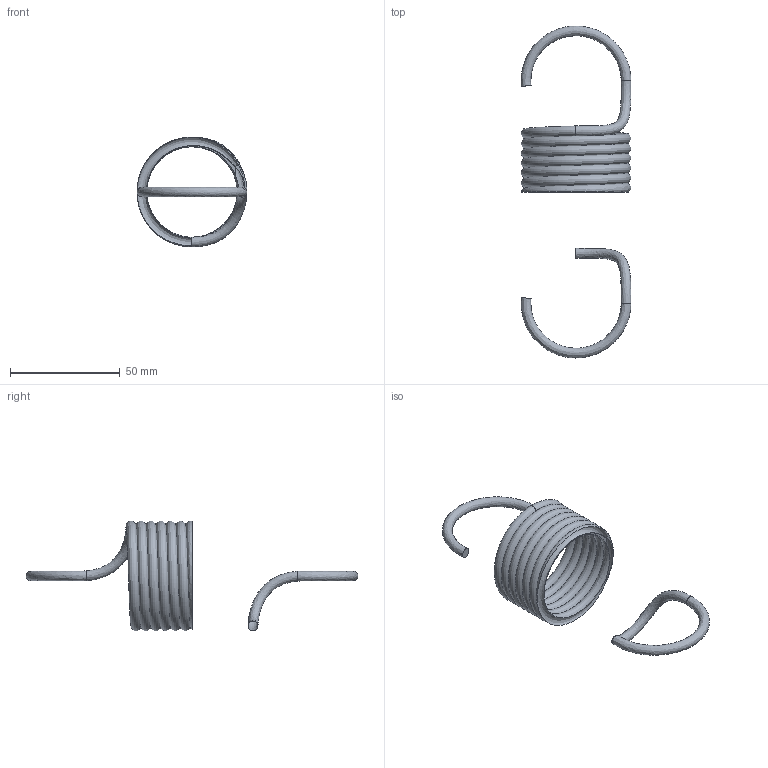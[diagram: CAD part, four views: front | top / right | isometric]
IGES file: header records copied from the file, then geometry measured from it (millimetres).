
Global section: file name: T12520; native system: Autodesk Inventor 2026; preprocessor: unknown; author: J. Iwanek; date: 20261005.100459; units: millimetre
Bounding box: 49.99 x 151 x 50 mm (x, y, z)
Volume: 33099 mm3; surface area: 29498.6 mm2
Topology: 1 solids, 1 shells, 10 faces, 33 edges, 20 vertices
Faces by surface type: bspline 10
